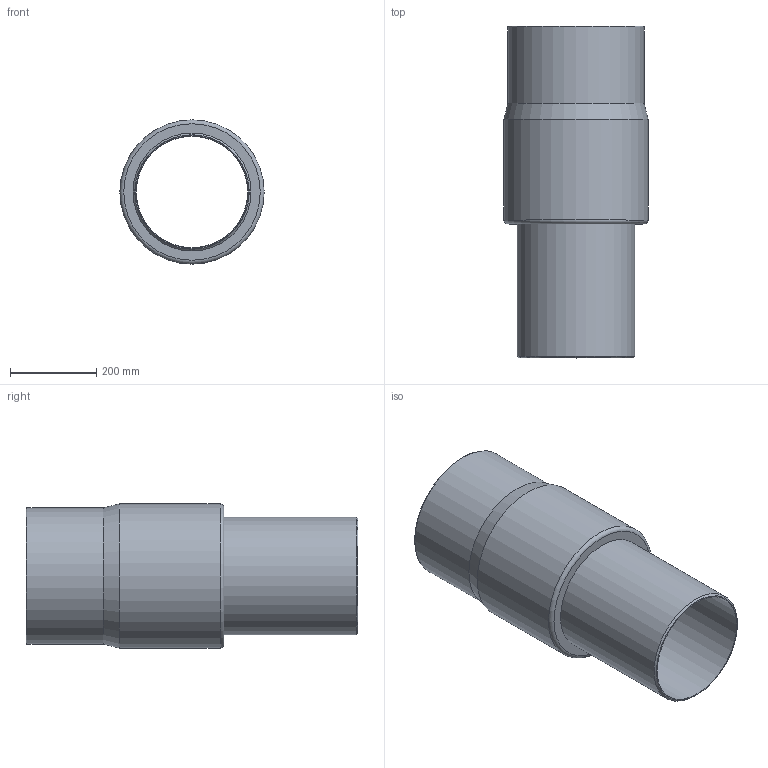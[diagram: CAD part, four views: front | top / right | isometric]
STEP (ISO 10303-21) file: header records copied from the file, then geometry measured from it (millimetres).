
FILE_DESCRIPTION(/* description */ ('Unknown'),/* implementation_level */ '2;1');
FILE_NAME(/* name */ 'RTSNP315C',/* time_stamp */ '2022-05-03T15:50:00+02:00',/* author */ ('Unknown'),/* organization */ ('Unknown'),/* preprocessor_version */ 'ST-DEVELOPER v18.1',/* originating_system */ 'Solid Edge',/* authorisation */ 'Unknown');
FILE_SCHEMA (('AUTOMOTIVE_DESIGN {1 0 10303 214 3 1 1}'));
Length unit declared in the file: millimetre
Products named in the file (3): RTSNP315C; Parte PE_; Partea ACCIAIO
Assembly tree (2 placements, depth 2):
  RTSNP315C
    Parte PE_
    Partea ACCIAIO
Bounding box: 334 x 768 x 334 mm (x, y, z)
Volume: 15668720.4 mm3; surface area: 1867994.8 mm2
Topology: 2 solids, 2 shells, 15 faces, 27 edges, 17 vertices
Faces by surface type: cylinder 6, plane 5, cone 2, torus 2
Full cylindrical faces by diameter (mm): 257.8 x1, 260.3 x1, 273 x2, 315 x1, 334 x1
Entity records: 388 total; most frequent: DIRECTION 66, CARTESIAN_POINT 48, AXIS2_PLACEMENT_3D 33, ORIENTED_EDGE 30, EDGE_LOOP 30, FACE_BOUND 30, EDGE_CURVE 15, VERTEX_POINT 15
